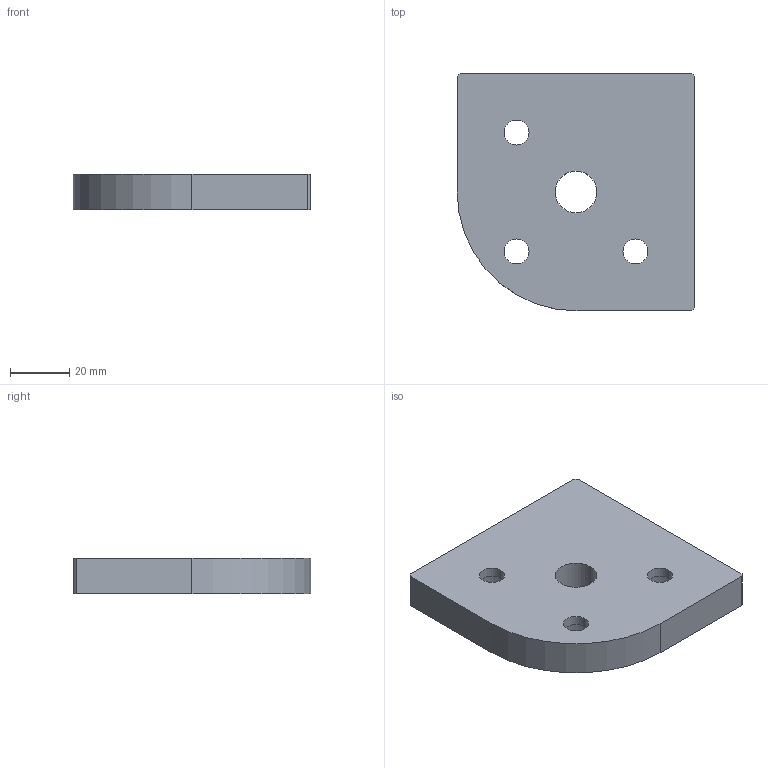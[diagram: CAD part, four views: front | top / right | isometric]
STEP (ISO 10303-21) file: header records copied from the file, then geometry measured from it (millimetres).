
FILE_DESCRIPTION (( 'STEP AP203' ), '1' );
FILE_NAME ('RPF8080.STEP', '2024-02-19T06:38:15', ( '' ), ( '' ), 'SwSTEP 2.0', 'SolidWorks 2022', '' );
FILE_SCHEMA (( 'CONFIG_CONTROL_DESIGN' ));
Length unit declared in the file: millimetre
Products named in the file (1): RPF8080
Bounding box: 80 x 80 x 12 mm (x, y, z)
Volume: 65689.9 mm3; surface area: 17095.5 mm2
Topology: 1 solids, 1 shells, 27 faces, 66 edges, 44 vertices
Faces by surface type: cylinder 15, plane 12
Entity records: 903 total; most frequent: DIRECTION 152, CARTESIAN_POINT 138, ORIENTED_EDGE 132, EDGE_CURVE 66, AXIS2_PLACEMENT_3D 58, VERTEX_POINT 44, EDGE_LOOP 38, VECTOR 36
